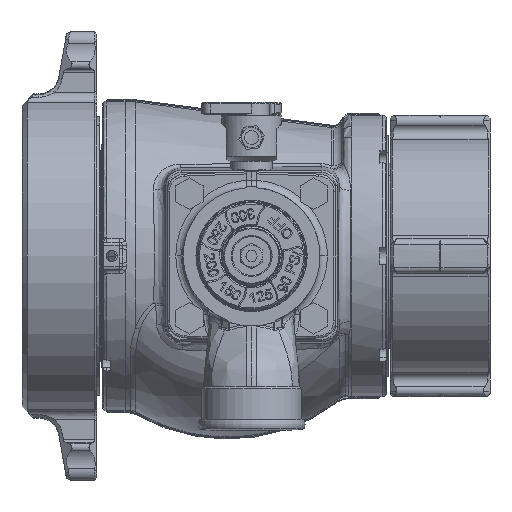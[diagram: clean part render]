
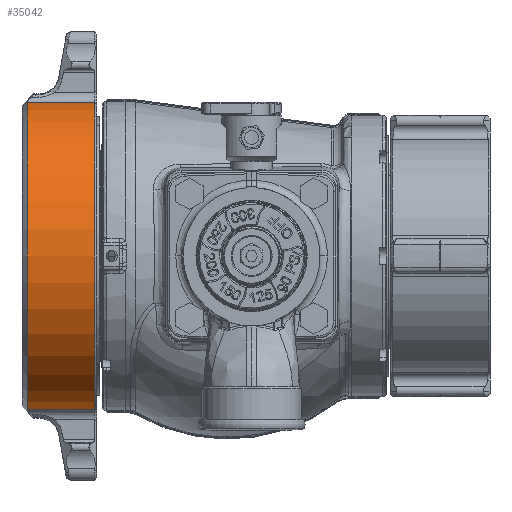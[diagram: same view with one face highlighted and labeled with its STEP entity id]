
A CAD part, front view. The second image highlights one B-rep face of the part: STEP entity #35042.
In plain terms, the highlighted cylindrical face has radius 98.425 mm (diameter 196.85 mm), a partial arc.
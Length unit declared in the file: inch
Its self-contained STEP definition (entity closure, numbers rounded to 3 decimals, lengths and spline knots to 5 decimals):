
#723 = DIRECTION ( 'NONE',  ( 0., 0., -1. ) ) ;
#1238 = EDGE_CURVE ( 'NONE', #23268, #5954, #74801, .T. ) ;
#3629 = EDGE_CURVE ( 'NONE', #98564, #23268, #42899, .T. ) ;
#5954 = VERTEX_POINT ( 'NONE', #22159 ) ;
#10739 = DIRECTION ( 'NONE',  ( -1., 0., 0. ) ) ;
#10888 = VECTOR ( 'NONE', #58948, 39.37008 ) ;
#13077 = ORIENTED_EDGE ( 'NONE', *, *, #1238, .F. ) ;
#14039 = ORIENTED_EDGE ( 'NONE', *, *, #3629, .F. ) ;
#17671 = CARTESIAN_POINT ( 'NONE',  ( -4.31665, -0.44219, 0. ) ) ;
#19172 = CYLINDRICAL_SURFACE ( 'NONE', #100802, 3.875 ) ;
#19491 = EDGE_LOOP ( 'NONE', ( #49739, #84460, #13077, #14039 ) ) ;
#22159 = CARTESIAN_POINT ( 'NONE',  ( -4.31665, -1.12325, 3.81468 ) ) ;
#22305 = CARTESIAN_POINT ( 'NONE',  ( -6.16715, -1.12325, -3.81468 ) ) ;
#23268 = VERTEX_POINT ( 'NONE', #93452 ) ;
#24999 = DIRECTION ( 'NONE',  ( 1., 0., 0. ) ) ;
#25317 = FACE_OUTER_BOUND ( 'NONE', #19491, .T. ) ;
#35042 = ADVANCED_FACE ( 'NONE', ( #25317 ), #19172, .T. ) ;
#41203 = AXIS2_PLACEMENT_3D ( 'NONE', #17671, #10739, #41330 ) ;
#41330 = DIRECTION ( 'NONE',  ( 0., 0., 1. ) ) ;
#42899 = CIRCLE ( 'NONE', #61376, 3.875 ) ;
#44558 = CARTESIAN_POINT ( 'NONE',  ( -5.99215, -0.44219, 0. ) ) ;
#47731 = CARTESIAN_POINT ( 'NONE',  ( -6.16715, -0.44219, 0. ) ) ;
#49739 = ORIENTED_EDGE ( 'NONE', *, *, #80591, .T. ) ;
#50172 = CARTESIAN_POINT ( 'NONE',  ( -5.99215, -1.12325, -3.81468 ) ) ;
#50394 = VECTOR ( 'NONE', #24999, 39.37008 ) ;
#53411 = DIRECTION ( 'NONE',  ( 0., 0., -1. ) ) ;
#57835 = VERTEX_POINT ( 'NONE', #70357 ) ;
#58948 = DIRECTION ( 'NONE',  ( 1., 0., 0. ) ) ;
#61376 = AXIS2_PLACEMENT_3D ( 'NONE', #44558, #69552, #53411 ) ;
#69552 = DIRECTION ( 'NONE',  ( -1., 0., 0. ) ) ;
#70357 = CARTESIAN_POINT ( 'NONE',  ( -4.31665, -1.12325, -3.81468 ) ) ;
#74404 = EDGE_CURVE ( 'NONE', #57835, #5954, #75643, .T. ) ;
#74801 = LINE ( 'NONE', #75073, #10888 ) ;
#75073 = CARTESIAN_POINT ( 'NONE',  ( -6.16715, -1.12325, 3.81468 ) ) ;
#75643 = CIRCLE ( 'NONE', #41203, 3.875 ) ;
#78632 = LINE ( 'NONE', #22305, #50394 ) ;
#80591 = EDGE_CURVE ( 'NONE', #98564, #57835, #78632, .T. ) ;
#84460 = ORIENTED_EDGE ( 'NONE', *, *, #74404, .T. ) ;
#86445 = DIRECTION ( 'NONE',  ( 1., 0., 0. ) ) ;
#93452 = CARTESIAN_POINT ( 'NONE',  ( -5.99215, -1.12325, 3.81468 ) ) ;
#98564 = VERTEX_POINT ( 'NONE', #50172 ) ;
#100802 = AXIS2_PLACEMENT_3D ( 'NONE', #47731, #86445, #723 ) ;
